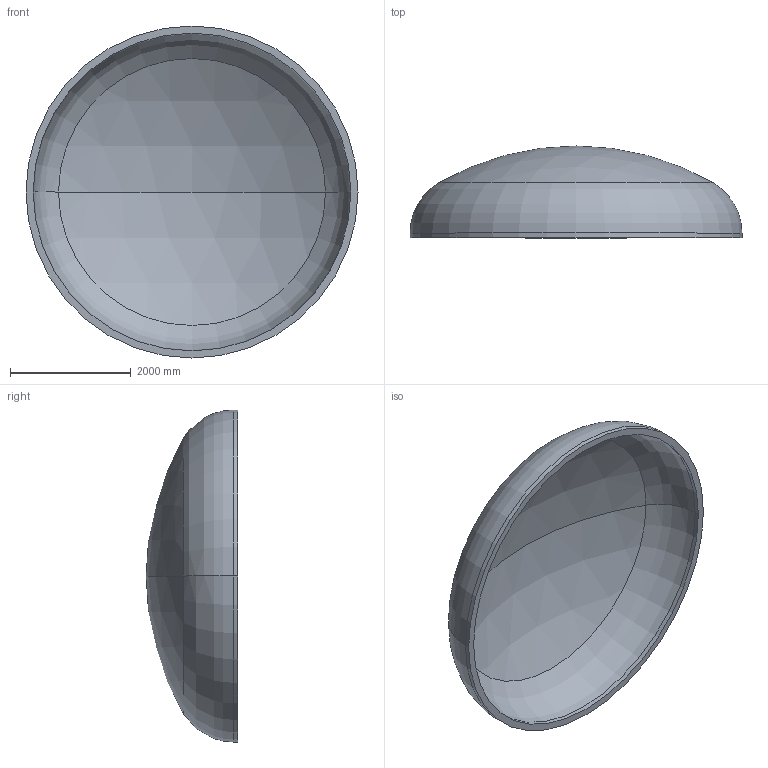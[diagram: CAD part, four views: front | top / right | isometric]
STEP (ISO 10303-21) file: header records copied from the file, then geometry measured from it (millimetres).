
FILE_DESCRIPTION (( 'STEP AP203' ), '1' );
FILE_NAME ('DIN 28013 Korbbogenform_-_Boden DIN 28013 - 5500 x 75 - I - s=118.step', '2016-07-04T10:35:27', ( '' ), ( '' ), 'SwSTEP 2.0', 'SolidWorks 2013', '' );
FILE_SCHEMA (( 'CONFIG_CONTROL_DESIGN' ));
Length unit declared in the file: millimetre
Products named in the file (1): DIN 28013 Korbbogenform_-_Boden DIN 28013 - 5500 x 75 - I - s=118
Bounding box: 5500 x 1519.78 x 5500 mm (x, y, z)
Volume: 3922617056.3 mm3; surface area: 68509323 mm2
Topology: 1 solids, 1 shells, 13 faces, 24 edges, 14 vertices
Faces by surface type: torus 4, cylinder 4, sphere 4, plane 1
Entity records: 407 total; most frequent: DIRECTION 72, CARTESIAN_POINT 52, ORIENTED_EDGE 48, AXIS2_PLACEMENT_3D 34, EDGE_CURVE 24, CIRCLE 20, VERTEX_POINT 14, EDGE_LOOP 14
